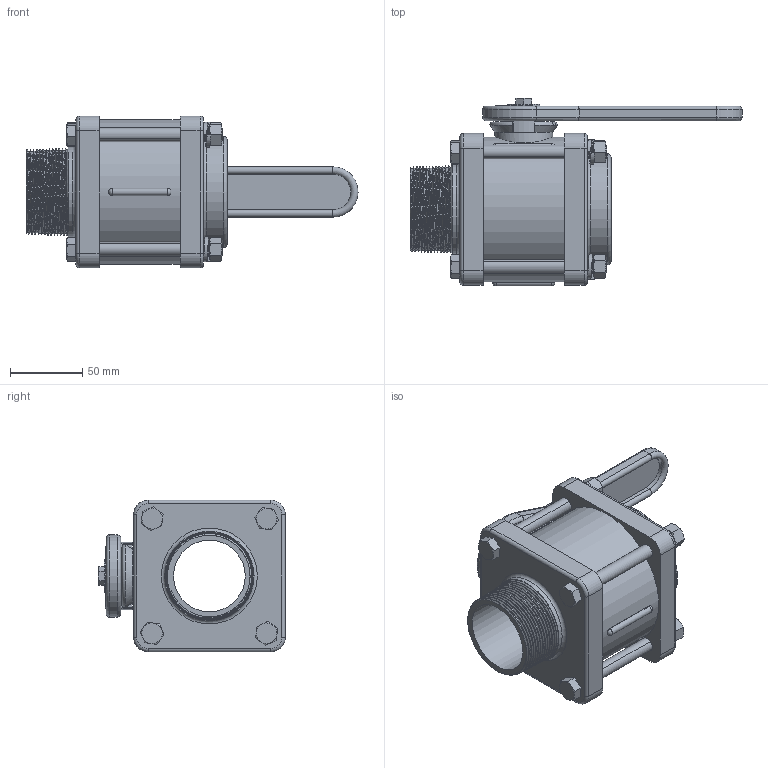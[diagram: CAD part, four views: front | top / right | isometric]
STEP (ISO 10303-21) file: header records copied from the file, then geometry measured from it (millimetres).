
FILE_DESCRIPTION(/* description */ ('Alibre Inc.'),/* implementation_level */ '2;1');
FILE_NAME(/* name */ 'export0',/* time_stamp */ '2017-07-10T10:43:47-04:00',/* author */ (''),/* organization */ (''),/* preprocessor_version */ 'ST-DEVELOPER v14',/* originating_system */ 'Alibre',/* authorisation */ '');
FILE_SCHEMA (('CONFIG_CONTROL_DESIGN'));
Products named in the file (15): ID_1; 91309A537; 91257A640; 92147A031; 91845A031
Bounding box: 229.49 x 129.81 x 104.9 mm (x, y, z)
Volume: 707845.4 mm3; surface area: 217435.5 mm2
Topology: 25 solids, 25 shells, 956 faces, 2462 edges, 1577 vertices
Faces by surface type: cylinder 335, plane 267, cone 184, bspline 122, torus 43, sphere 5
Full cylindrical faces by diameter (mm): 4.978 x1, 8.382 x1, 9.855 x8, 16.002 x1, 22.352 x1, 23.368 x1, 23.622 x2, 31.496 x1, 31.572 x1, 39.878 x1, 49.53 x2, 50.038 x1, 50.8 x2, 57.15 x2, 57.912 x2, 61.722 x1, 76.708 x1, 80.01 x2, 81.28 x1, 86.769 x2, 92.865 x2, 93.472 x2, 100.076 x1
Entity records: 76007 total; most frequent: CARTESIAN_POINT 60608, ORIENTED_EDGE 3172, DIRECTION 2151, EDGE_CURVE 1578, VERTEX_POINT 1046, AXIS2_PLACEMENT_3D 866, FACE_BOUND 758, EDGE_LOOP 756
